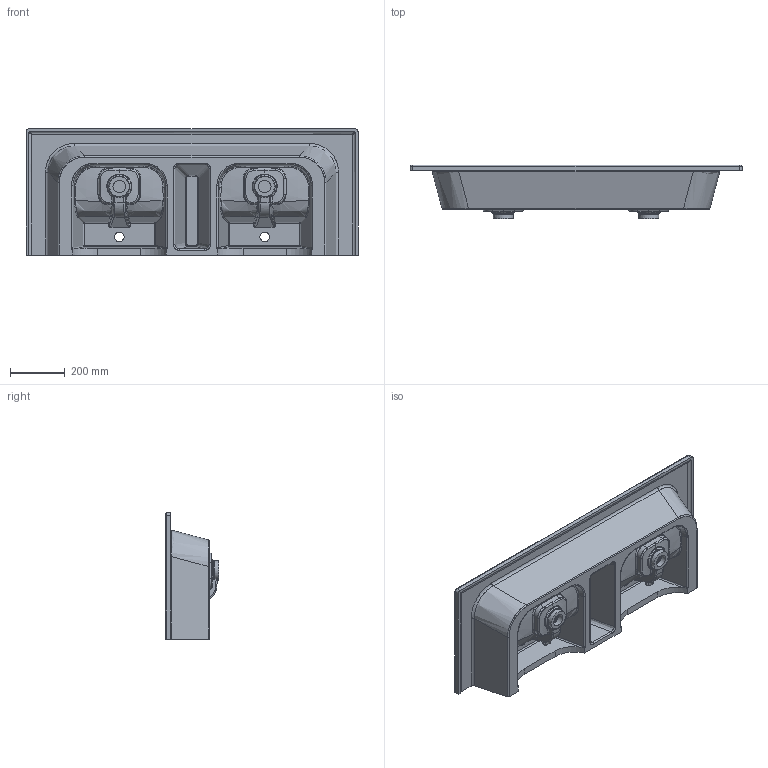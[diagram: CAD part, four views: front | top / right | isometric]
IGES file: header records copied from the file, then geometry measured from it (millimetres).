
Start section: SolidWorks IGES file using analytic representation for surfaces
Global section: file name: C:\Work\OLD 2016\TECLA 2016\THESAN 2016\THESAN IGS\THESAN120 2V.IGS; native system: SolidWorks 2017; preprocessor: SolidWorks 2017; author: utente; date: 170301.184222; units: millimetre
Bounding box: 1210 x 195 x 460 mm (x, y, z)
Surface area: 2015177 mm2 (no closed solid volume)
Topology: 0 solids, 0 shells, 602 faces, 2820 edges, 2766 vertices
Faces by surface type: bspline 348, revolution 254
